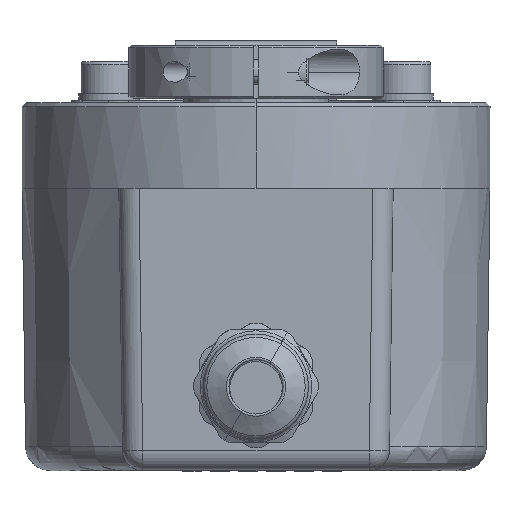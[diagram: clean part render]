
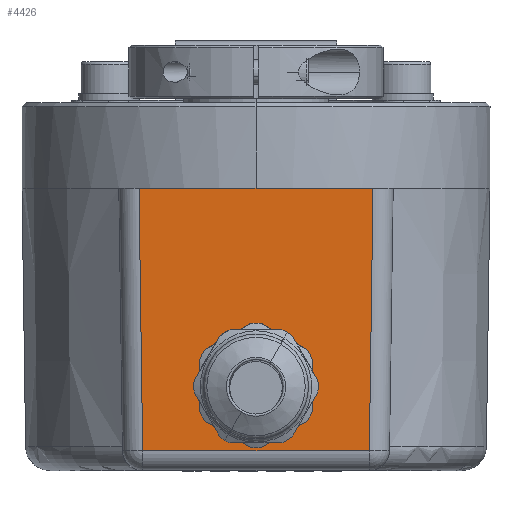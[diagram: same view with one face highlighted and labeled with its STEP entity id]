
A CAD part, front view. The second image highlights one B-rep face of the part: STEP entity #4426.
In plain terms, the highlighted planar face has unit normal (0, -1, -0.014).
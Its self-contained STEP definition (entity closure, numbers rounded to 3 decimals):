
#174 = CARTESIAN_POINT ( 'NONE',  ( 0., -28.659, 10.6 ) ) ;
#665 = EDGE_CURVE ( 'NONE', #11444, #9100, #7995, .T. ) ;
#1028 = DIRECTION ( 'NONE',  ( 1., 0., 0. ) ) ;
#1147 = CARTESIAN_POINT ( 'NONE',  ( 14.501, -29., 35.035 ) ) ;
#1553 = ORIENTED_EDGE ( 'NONE', *, *, #6867, .F. ) ;
#1653 = VERTEX_POINT ( 'NONE', #5279 ) ;
#2149 = CARTESIAN_POINT ( 'NONE',  ( 17., -29., 35. ) ) ;
#2221 = VERTEX_POINT ( 'NONE', #10614 ) ;
#2534 = ORIENTED_EDGE ( 'NONE', *, *, #665, .T. ) ;
#2581 = DIRECTION ( 'NONE',  ( 0., 0.014, -1. ) ) ;
#2640 = VERTEX_POINT ( 'NONE', #12995 ) ;
#2761 = CARTESIAN_POINT ( 'NONE',  ( -4.387, -28.613, 7.283 ) ) ;
#3220 = EDGE_LOOP ( 'NONE', ( #5632, #11387, #3598 ) ) ;
#3422 = DIRECTION ( 'NONE',  ( 1., 0., 0. ) ) ;
#3598 = ORIENTED_EDGE ( 'NONE', *, *, #12206, .F. ) ;
#3741 = ORIENTED_EDGE ( 'NONE', *, *, #4481, .F. ) ;
#4334 = EDGE_CURVE ( 'NONE', #2640, #11444, #6663, .T. ) ;
#4421 = DIRECTION ( 'NONE',  ( 0., -1., -0.014 ) ) ;
#4426 = ADVANCED_FACE ( 'NONE', ( #14335, #5764 ), #5851, .T. ) ;
#4481 = EDGE_CURVE ( 'NONE', #2640, #2221, #8015, .T. ) ;
#4680 = CARTESIAN_POINT ( 'NONE',  ( 0., -28.745, 16.75 ) ) ;
#5205 = CARTESIAN_POINT ( 'NONE',  ( 17., -29., 35. ) ) ;
#5279 = CARTESIAN_POINT ( 'NONE',  ( 14.5, -29., 35. ) ) ;
#5392 = CARTESIAN_POINT ( 'NONE',  ( 0., -28.659, 10.6 ) ) ;
#5632 = ORIENTED_EDGE ( 'NONE', *, *, #15224, .F. ) ;
#5646 = CARTESIAN_POINT ( 'NONE',  ( -2.75, -28.593, 5.837 ) ) ;
#5691 = CARTESIAN_POINT ( 'NONE',  ( 17., -29., 35. ) ) ;
#5758 = VECTOR ( 'NONE', #3422, 1000. ) ;
#5764 = FACE_OUTER_BOUND ( 'NONE', #8084, .T. ) ;
#5851 = PLANE ( 'NONE',  #7287 ) ;
#5913 = CARTESIAN_POINT ( 'NONE',  ( 17., -28.546, 2.465 ) ) ;
#5956 = DIRECTION ( 'NONE',  ( 0.014, -0.014, 1. ) ) ;
#6141 = CIRCLE ( 'NONE', #15094, 5.5 ) ;
#6204 = CARTESIAN_POINT ( 'NONE',  ( -8.051, -28.673, 11.608 ) ) ;
#6262 = VERTEX_POINT ( 'NONE', #5646 ) ;
#6352 = EDGE_CURVE ( 'NONE', #10976, #13393, #13688, .T. ) ;
#6433 = ORIENTED_EDGE ( 'NONE', *, *, #12935, .T. ) ;
#6663 = LINE ( 'NONE', #11585, #15750 ) ;
#6867 = EDGE_CURVE ( 'NONE', #2221, #1653, #7532, .T. ) ;
#7073 = CARTESIAN_POINT ( 'NONE',  ( -4.387, -28.613, 7.283 ) ) ;
#7287 = AXIS2_PLACEMENT_3D ( 'NONE', #5691, #8259, #13086 ) ;
#7532 = LINE ( 'NONE', #5205, #14824 ) ;
#7995 = LINE ( 'NONE', #5913, #10506 ) ;
#8015 = LINE ( 'NONE', #2149, #5758 ) ;
#8084 = EDGE_LOOP ( 'NONE', ( #3741, #11109, #2534, #6433, #1553 ) ) ;
#8259 = DIRECTION ( 'NONE',  ( 0., -1., -0.014 ) ) ;
#8725 = VECTOR ( 'NONE', #5956, 1000. ) ;
#9100 = VERTEX_POINT ( 'NONE', #13327 ) ;
#9320 = DIRECTION ( 'NONE',  ( 0., 0.014, -1. ) ) ;
#9425 = CARTESIAN_POINT ( 'NONE',  ( 4.387, -28.613, 7.283 ) ) ;
#9749 = CARTESIAN_POINT ( 'NONE',  ( -5.668, -28.745, 16.75 ) ) ;
#9822 = CARTESIAN_POINT ( 'NONE',  ( 8.051, -28.673, 11.608 ) ) ;
#10318 = CARTESIAN_POINT ( 'NONE',  ( -14.046, -28.546, 2.465 ) ) ;
#10506 = VECTOR ( 'NONE', #1028, 1000. ) ;
#10614 = CARTESIAN_POINT ( 'NONE',  ( 0., -29., 35. ) ) ;
#10726 = CIRCLE ( 'NONE', #12012, 5.5 ) ;
#10976 = VERTEX_POINT ( 'NONE', #11625 ) ;
#11109 = ORIENTED_EDGE ( 'NONE', *, *, #4334, .T. ) ;
#11387 = ORIENTED_EDGE ( 'NONE', *, *, #6352, .F. ) ;
#11444 = VERTEX_POINT ( 'NONE', #10318 ) ;
#11585 = CARTESIAN_POINT ( 'NONE',  ( -14.494, -28.994, 34.56 ) ) ;
#11625 = CARTESIAN_POINT ( 'NONE',  ( 4.387, -28.613, 7.283 ) ) ;
#12012 = AXIS2_PLACEMENT_3D ( 'NONE', #174, #12615, #2581 ) ;
#12137 = LINE ( 'NONE', #1147, #8725 ) ;
#12206 = EDGE_CURVE ( 'NONE', #6262, #10976, #6141, .T. ) ;
#12306 = CARTESIAN_POINT ( 'NONE',  ( 5.668, -28.745, 16.75 ) ) ;
#12436 = DIRECTION ( 'NONE',  ( 1., 0., 0. ) ) ;
#12615 = DIRECTION ( 'NONE',  ( 0., -1., -0.014 ) ) ;
#12935 = EDGE_CURVE ( 'NONE', #9100, #1653, #12137, .T. ) ;
#12995 = CARTESIAN_POINT ( 'NONE',  ( -14.5, -29., 35. ) ) ;
#13086 = DIRECTION ( 'NONE',  ( 0., -0.014, 1. ) ) ;
#13327 = CARTESIAN_POINT ( 'NONE',  ( 14.046, -28.546, 2.465 ) ) ;
#13393 = VERTEX_POINT ( 'NONE', #2761 ) ;
#13688 =( BOUNDED_CURVE ( )  B_SPLINE_CURVE ( 3, ( #9425, #9822, #12306, #4680, #9749, #6204, #7073 ),
 .UNSPECIFIED., .F., .T. ) 
 B_SPLINE_CURVE_WITH_KNOTS ( ( 4, 3, 4 ),
 ( 0.868, 3.142, 5.415 ),
 .UNSPECIFIED. ) 
 CURVE ( )  GEOMETRIC_REPRESENTATION_ITEM ( )  RATIONAL_B_SPLINE_CURVE ( ( 1., 0.614, 0.614, 1., 0.614, 0.614, 1. ) ) 
 REPRESENTATION_ITEM ( '' )  );
#14335 = FACE_BOUND ( 'NONE', #3220, .T. ) ;
#14824 = VECTOR ( 'NONE', #12436, 1000. ) ;
#15094 = AXIS2_PLACEMENT_3D ( 'NONE', #5392, #4421, #9320 ) ;
#15224 = EDGE_CURVE ( 'NONE', #13393, #6262, #10726, .T. ) ;
#15228 = DIRECTION ( 'NONE',  ( 0.014, 0.014, -1. ) ) ;
#15750 = VECTOR ( 'NONE', #15228, 1000. ) ;
